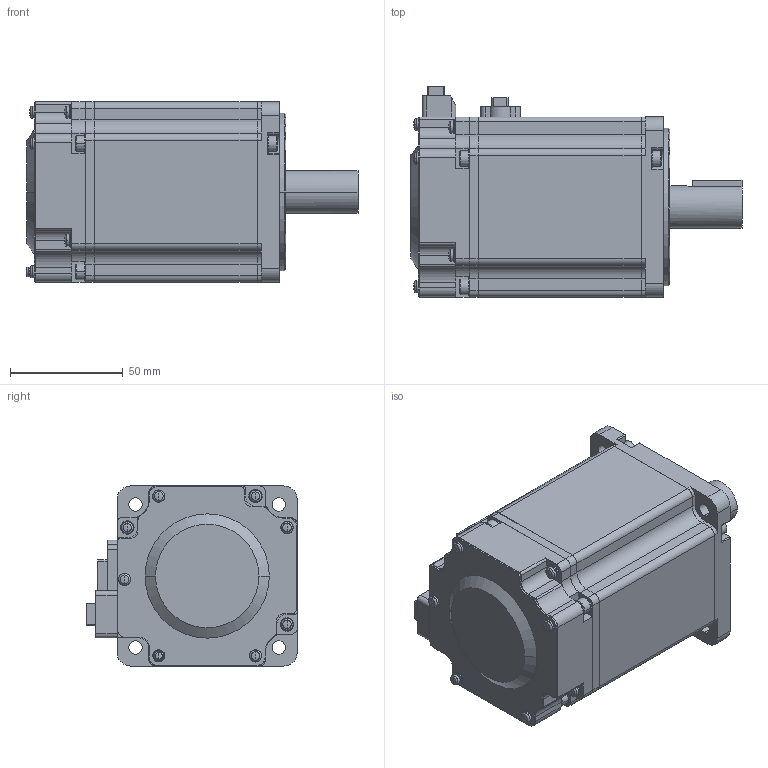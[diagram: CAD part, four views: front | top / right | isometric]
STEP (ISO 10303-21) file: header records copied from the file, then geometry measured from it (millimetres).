
FILE_DESCRIPTION( ( '' ), '1' );
FILE_NAME( '//expscmdclustefs.cadenas.external/client_exchange/iodir/jobs/output/wkb53605545_no0/STEP/MSME082G1U_1__2_03.stp', '2013-01-24T13:13:21', ( '' ), ( '' ), ' ', ' ', ' ' );
FILE_SCHEMA( ( 'CONFIG_CONTROL_DESIGN' ) );
Length unit declared in the file: millimetre
Products named in the file (1): 1
Bounding box: 147.55 x 93.5 x 80 mm (x, y, z)
Volume: 645693.8 mm3; surface area: 62720.8 mm2
Topology: 1 solids, 1 shells, 740 faces, 1962 edges, 1275 vertices
Faces by surface type: plane 388, cylinder 274, cone 42, torus 36
Entity records: 23027 total; most frequent: DIRECTION 4105, CARTESIAN_POINT 4022, ORIENTED_EDGE 3880, EDGE_CURVE 1940, AXIS2_PLACEMENT_3D 1426, VERTEX_POINT 1275, LINE 1253, VECTOR 1253
